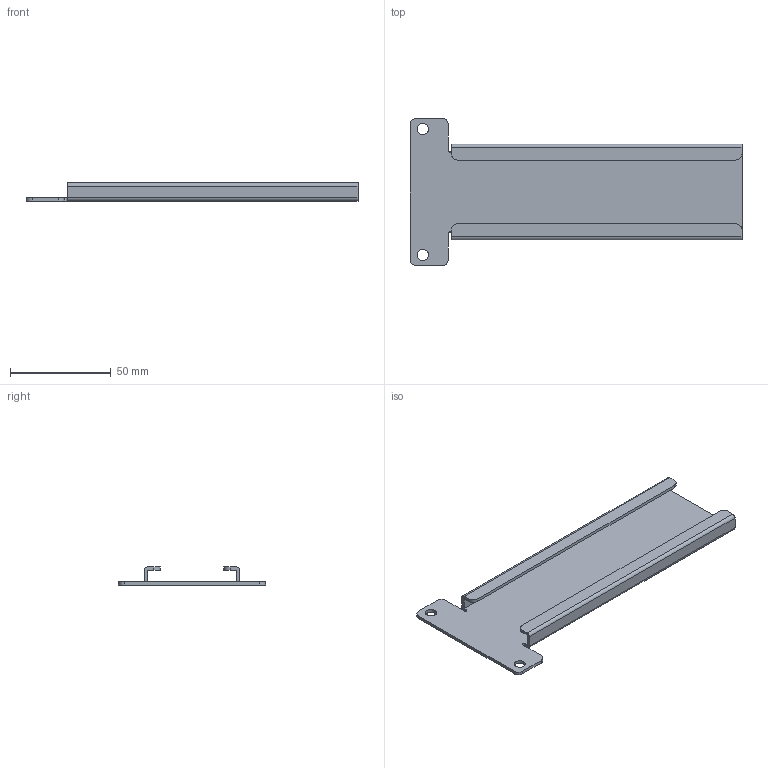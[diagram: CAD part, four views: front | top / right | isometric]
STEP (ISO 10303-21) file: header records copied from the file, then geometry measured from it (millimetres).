
FILE_DESCRIPTION((''),'2;1');
FILE_NAME('2602-334','2014-04-22T',('jpeters'),('Keithley Instruments, Inc'),'PRO/ENGINEER BY PARAMETRIC TECHNOLOGY CORPORATION, 2012480','PRO/ENGINEER BY PARAMETRIC TECHNOLOGY CORPORATION, 2012480','');
FILE_SCHEMA(('CONFIG_CONTROL_DESIGN'));
Length unit declared in the file: inch
Products named in the file (1): 2602-334
Bounding box: 165.1 x 73.15 x 8.99 mm (x, y, z)
Volume: 18982.3 mm3; surface area: 25001.5 mm2
Topology: 1 solids, 1 shells, 38 faces, 108 edges, 72 vertices
Faces by surface type: plane 20, cylinder 18
Entity records: 1296 total; most frequent: DIRECTION 220, CARTESIAN_POINT 218, ORIENTED_EDGE 216, EDGE_CURVE 108, AXIS2_PLACEMENT_3D 74, VECTOR 72, LINE 72, VERTEX_POINT 72
